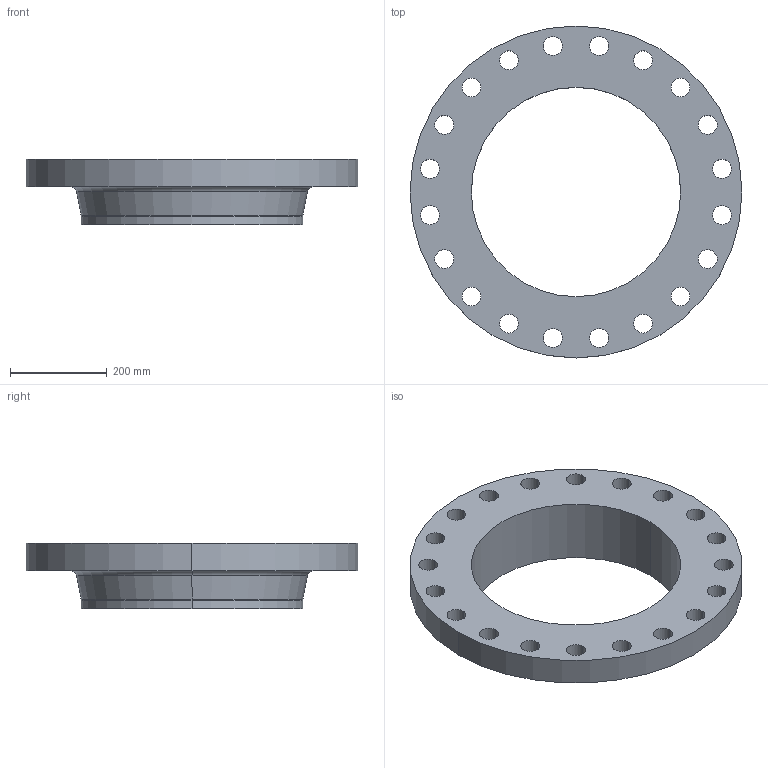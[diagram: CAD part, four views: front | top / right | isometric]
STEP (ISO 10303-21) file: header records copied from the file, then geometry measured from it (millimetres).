
FILE_DESCRIPTION (( 'STEP AP214' ), '1' );
FILE_NAME ('PN40 DN450 Type 11 - Type A Face.STEP', '2018-12-29T04:56:49', ( '' ), ( '' ), 'SwSTEP 2.0', 'SolidWorks 2019', '' );
FILE_SCHEMA (( 'AUTOMOTIVE_DESIGN' ));
Length unit declared in the file: millimetre
Products named in the file (1): PN40 DN450 Type 11 - Type A Face
Bounding box: 685 x 685 x 135 mm (x, y, z)
Volume: 13182679.2 mm3; surface area: 935550.7 mm2
Topology: 1 solids, 1 shells, 55 faces, 150 edges, 98 vertices
Faces by surface type: cylinder 46, torus 4, plane 3, cone 2
Entity records: 1916 total; most frequent: DIRECTION 364, CARTESIAN_POINT 304, ORIENTED_EDGE 300, AXIS2_PLACEMENT_3D 158, EDGE_CURVE 150, CIRCLE 102, VERTEX_POINT 98, EDGE_LOOP 98
